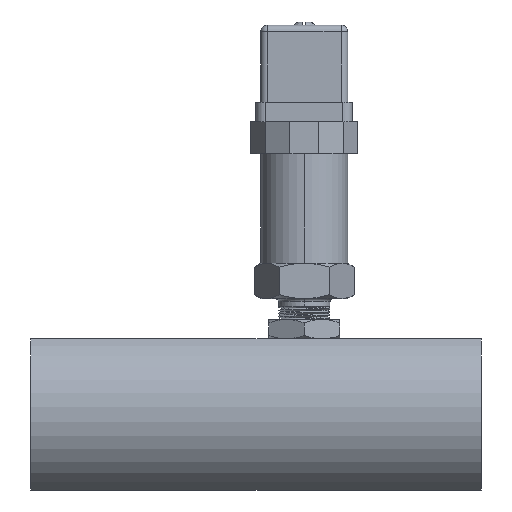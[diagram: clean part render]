
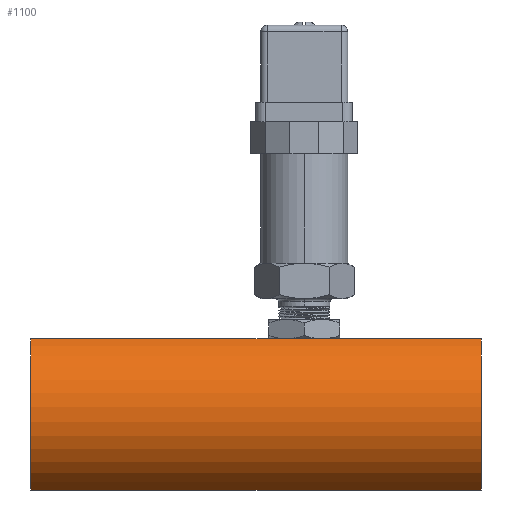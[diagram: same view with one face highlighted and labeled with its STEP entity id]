
A CAD part, left-side view. The second image highlights one B-rep face of the part: STEP entity #1100.
In plain terms, the highlighted cylindrical face has radius 26.5 mm (diameter 53 mm), a partial arc.
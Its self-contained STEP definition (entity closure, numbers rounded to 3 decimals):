
#399=CYLINDRICAL_SURFACE('',#7457,26.5);
#729=FACE_OUTER_BOUND('',#1996,.T.);
#1100=ADVANCED_FACE('',(#729),#399,.T.);
#1546=CIRCLE('',#7455,26.5);
#1547=CIRCLE('',#7456,26.5);
#1996=EDGE_LOOP('',(#3882,#3883,#3884,#3885));
#3882=ORIENTED_EDGE('',*,*,#5617,.F.);
#3883=ORIENTED_EDGE('',*,*,#5618,.T.);
#3884=ORIENTED_EDGE('',*,*,#5619,.F.);
#3885=ORIENTED_EDGE('',*,*,#5620,.T.);
#4647=VERTEX_POINT('',#13459);
#4648=VERTEX_POINT('',#13460);
#4649=VERTEX_POINT('',#13462);
#4650=VERTEX_POINT('',#13464);
#5617=EDGE_CURVE('',#4647,#4648,#6320,.T.);
#5618=EDGE_CURVE('',#4647,#4649,#1546,.T.);
#5619=EDGE_CURVE('',#4650,#4649,#6321,.T.);
#5620=EDGE_CURVE('',#4650,#4648,#1547,.T.);
#6320=LINE('',#13458,#6955);
#6321=LINE('',#13463,#6956);
#6955=VECTOR('',#9083,1.);
#6956=VECTOR('',#9086,1.);
#7455=AXIS2_PLACEMENT_3D('',#13461,#9084,#9085);
#7456=AXIS2_PLACEMENT_3D('',#13465,#9087,#9088);
#7457=AXIS2_PLACEMENT_3D('',#13466,#9089,#9090);
#9083=DIRECTION('',(0.,1.,0.));
#9084=DIRECTION('',(0.,1.,0.));
#9085=DIRECTION('',(-1.,0.,0.));
#9086=DIRECTION('',(0.,-1.,0.));
#9087=DIRECTION('',(0.,-1.,0.));
#9088=DIRECTION('',(-1.,0.,0.));
#9089=DIRECTION('',(0.,-1.,0.));
#9090=DIRECTION('',(-1.,0.,0.));
#13458=CARTESIAN_POINT('',(13.253,138.9,-141.));
#13459=CARTESIAN_POINT('',(13.253,-18.6,-141.));
#13460=CARTESIAN_POINT('',(13.253,121.4,-141.));
#13461=CARTESIAN_POINT('',(25.5,-18.6,-117.5));
#13462=CARTESIAN_POINT('',(13.253,-18.6,-94.));
#13463=CARTESIAN_POINT('',(13.253,138.9,-94.));
#13464=CARTESIAN_POINT('',(13.253,121.4,-94.));
#13465=CARTESIAN_POINT('',(25.5,121.4,-117.5));
#13466=CARTESIAN_POINT('',(25.5,138.9,-117.5));
